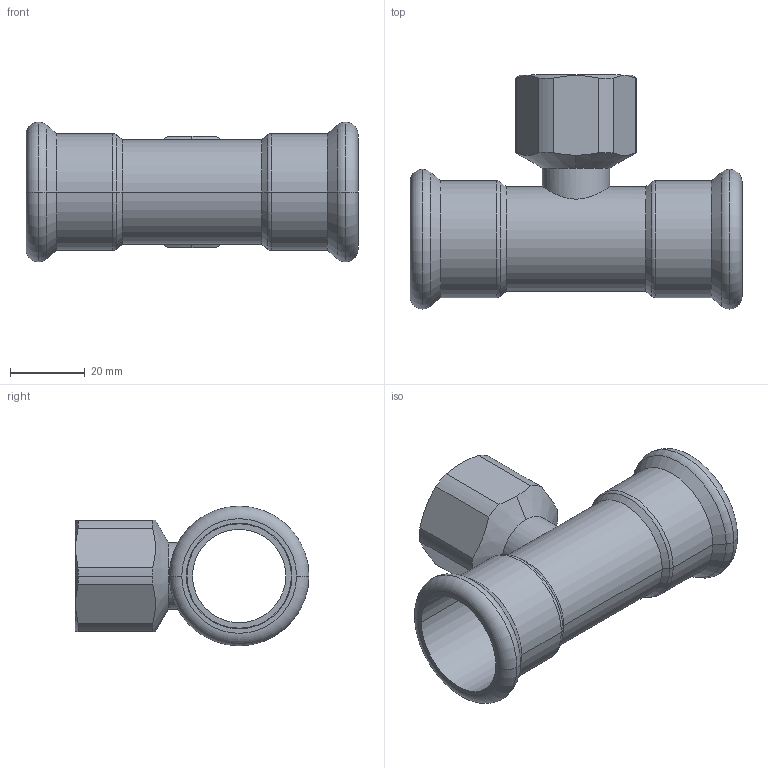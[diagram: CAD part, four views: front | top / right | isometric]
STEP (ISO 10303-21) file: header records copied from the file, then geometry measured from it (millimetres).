
FILE_DESCRIPTION(('CoCreate Modeling STEP Export'),'2;1');
FILE_NAME('C1418 28xRp3-4x28.stp','2014-11-12T13:38:40',(''),(''),'CoCreate Modeling STEP processor for AP214 (Solid Model)','CoCreate Modeling 17.00A 17-Jun-2010 (C) Parametric Technology GmbH','');
FILE_SCHEMA(('AUTOMOTIVE_DESIGN { 1 0 10303 214 1 1 1 1 }'));
Length unit declared in the file: millimetre
Products named in the file (2): C1418_28xRp3-4x28
Assembly tree (1 placements, depth 2):
  C1418_28xRp3-4x28
    C1418_28xRp3-4x28
Bounding box: 89 x 62.73 x 37.45 mm (x, y, z)
Volume: 23472.1 mm3; surface area: 22734 mm2
Topology: 1 solids, 1 shells, 68 faces, 161 edges, 99 vertices
Faces by surface type: cylinder 30, plane 14, torus 12, cone 12
Entity records: 3295 total; most frequent: CARTESIAN_POINT 1878, ORIENTED_EDGE 322, DIRECTION 242, EDGE_CURVE 161, VERTEX_POINT 99, AXIS2_PLACEMENT_3D 97, EDGE_LOOP 76, FACE_OUTER_BOUND 68
